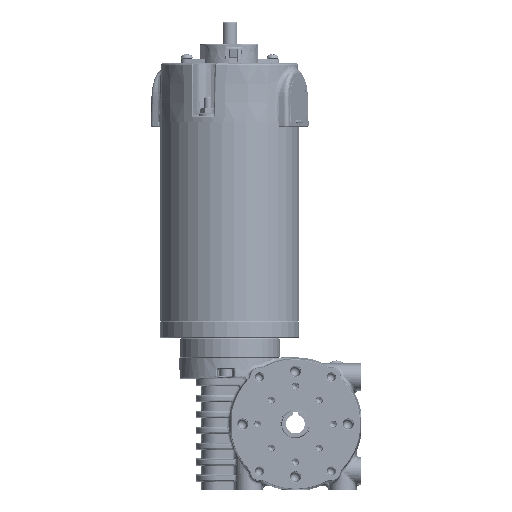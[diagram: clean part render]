
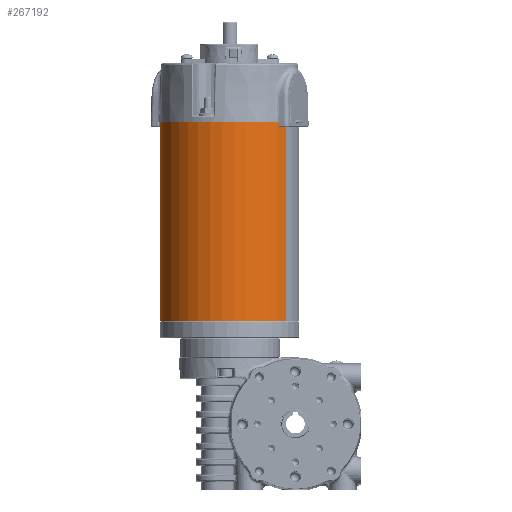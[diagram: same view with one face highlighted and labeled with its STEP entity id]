
A CAD part, left-side view. The second image highlights one B-rep face of the part: STEP entity #267192.
In plain terms, the highlighted cylindrical face has radius 37.15 mm (diameter 74.3 mm), a partial arc.
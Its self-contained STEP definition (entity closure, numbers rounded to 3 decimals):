
#12125 = CARTESIAN_POINT ( 'NONE',  ( 27.455, 44.51, 50.358 ) ) ;
#39641 = VERTEX_POINT ( 'NONE', #12125 ) ;
#61698 = DIRECTION ( 'NONE',  ( 0., 0., -1. ) ) ;
#66601 = VERTEX_POINT ( 'NONE', #350867 ) ;
#98413 = VECTOR ( 'NONE', #445240, 1000. ) ;
#117693 = DIRECTION ( 'NONE',  ( 0., 0., 1. ) ) ;
#122904 = CARTESIAN_POINT ( 'NONE',  ( -16.926, -15.079, 50.358 ) ) ;
#141584 = DIRECTION ( 'NONE',  ( 0.597, 0.802, 0. ) ) ;
#145281 = DIRECTION ( 'NONE',  ( 0., 0., 1. ) ) ;
#155115 = CARTESIAN_POINT ( 'NONE',  ( 27.455, 44.51, 50.358 ) ) ;
#182716 = DIRECTION ( 'NONE',  ( -0.597, -0.802, 0. ) ) ;
#185328 = FACE_OUTER_BOUND ( 'NONE', #321497, .T. ) ;
#210034 = ORIENTED_EDGE ( 'NONE', *, *, #439556, .T. ) ;
#226903 = CARTESIAN_POINT ( 'NONE',  ( 5.264, 14.716, 156.358 ) ) ;
#237550 = CARTESIAN_POINT ( 'NONE',  ( -16.926, -15.079, 50.358 ) ) ;
#255219 = ORIENTED_EDGE ( 'NONE', *, *, #325763, .T. ) ;
#267192 = ADVANCED_FACE ( 'NONE', ( #185328 ), #393047, .T. ) ;
#269079 = CARTESIAN_POINT ( 'NONE',  ( 5.264, 14.716, 50.358 ) ) ;
#277502 = AXIS2_PLACEMENT_3D ( 'NONE', #226903, #61698, #141584 ) ;
#288737 = VERTEX_POINT ( 'NONE', #122904 ) ;
#291738 = CIRCLE ( 'NONE', #444881, 37.15 ) ;
#321497 = EDGE_LOOP ( 'NONE', ( #443688, #468185, #210034, #255219 ) ) ;
#324100 = DIRECTION ( 'NONE',  ( 0., 0., -1. ) ) ;
#325763 = EDGE_CURVE ( 'NONE', #66601, #427506, #506883, .T. ) ;
#327953 = LINE ( 'NONE', #237550, #335594 ) ;
#335594 = VECTOR ( 'NONE', #117693, 1000. ) ;
#350867 = CARTESIAN_POINT ( 'NONE',  ( -16.926, -15.079, 156.358 ) ) ;
#373380 = EDGE_CURVE ( 'NONE', #288737, #39641, #291738, .T. ) ;
#374548 = EDGE_CURVE ( 'NONE', #39641, #427506, #519791, .T. ) ;
#393047 = CYLINDRICAL_SURFACE ( 'NONE', #497230, 37.15 ) ;
#394707 = CARTESIAN_POINT ( 'NONE',  ( 27.455, 44.51, 156.358 ) ) ;
#427506 = VERTEX_POINT ( 'NONE', #394707 ) ;
#431459 = DIRECTION ( 'NONE',  ( 0.597, 0.802, 0. ) ) ;
#439556 = EDGE_CURVE ( 'NONE', #288737, #66601, #327953, .T. ) ;
#443688 = ORIENTED_EDGE ( 'NONE', *, *, #374548, .F. ) ;
#444881 = AXIS2_PLACEMENT_3D ( 'NONE', #269079, #324100, #431459 ) ;
#445240 = DIRECTION ( 'NONE',  ( 0., 0., 1. ) ) ;
#468185 = ORIENTED_EDGE ( 'NONE', *, *, #373380, .F. ) ;
#497230 = AXIS2_PLACEMENT_3D ( 'NONE', #512644, #145281, #182716 ) ;
#506883 = CIRCLE ( 'NONE', #277502, 37.15 ) ;
#512644 = CARTESIAN_POINT ( 'NONE',  ( 5.264, 14.716, 50.358 ) ) ;
#519791 = LINE ( 'NONE', #155115, #98413 ) ;
